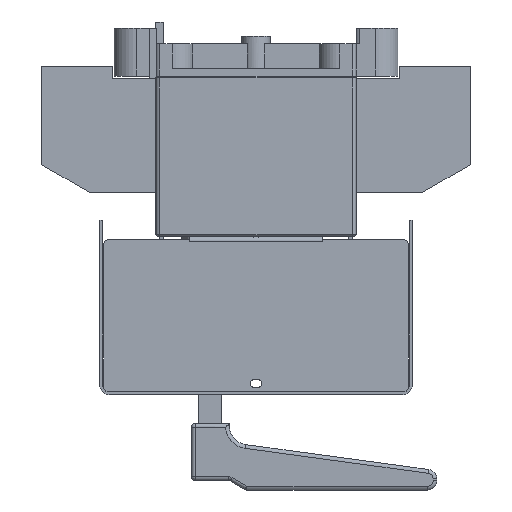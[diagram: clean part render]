
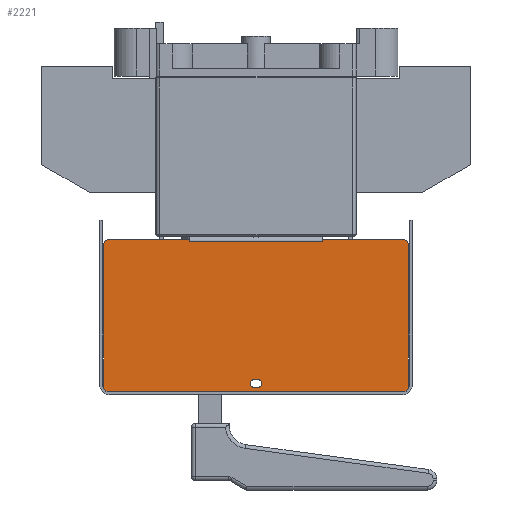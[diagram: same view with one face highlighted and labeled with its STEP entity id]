
A CAD part, left-side view. The second image highlights one B-rep face of the part: STEP entity #2221.
In plain terms, the highlighted planar face has unit normal (-1, 0, 0).
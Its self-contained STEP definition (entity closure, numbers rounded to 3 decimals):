
#2221=ADVANCED_FACE('',(#9088,#9089),#3278,.T.);
#3278=PLANE('',#24937);
#5010=LINE('',#36242,#7625);
#5020=LINE('',#36267,#7635);
#5022=LINE('',#36271,#7637);
#5024=LINE('',#36275,#7639);
#5027=LINE('',#36281,#7642);
#5037=LINE('',#36316,#7652);
#5038=LINE('',#36320,#7653);
#5039=LINE('',#36321,#7654);
#5040=LINE('',#36325,#7655);
#5041=LINE('',#36329,#7656);
#5042=LINE('',#36333,#7657);
#5043=LINE('',#36337,#7658);
#7625=VECTOR('',#29225,1.);
#7635=VECTOR('',#29251,1.);
#7637=VECTOR('',#29255,1.);
#7639=VECTOR('',#29259,1.);
#7642=VECTOR('',#29264,1.);
#7652=VECTOR('',#29292,1.);
#7653=VECTOR('',#29295,1.);
#7654=VECTOR('',#29296,1.);
#7655=VECTOR('',#29299,1.);
#7656=VECTOR('',#29302,1.);
#7657=VECTOR('',#29305,1.);
#7658=VECTOR('',#29308,1.);
#9088=FACE_BOUND('',#9932,.T.);
#9089=FACE_BOUND('',#9933,.T.);
#9932=EDGE_LOOP('',(#14026,#14027,#14028,#14029));
#9933=EDGE_LOOP('',(#14030,#14031,#14032,#14033,#14034,#14035,#14036,#14037,
#14038,#14039,#14040,#14041,#14042,#14043));
#14026=ORIENTED_EDGE('',*,*,#21449,.T.);
#14027=ORIENTED_EDGE('',*,*,#21450,.T.);
#14028=ORIENTED_EDGE('',*,*,#21451,.T.);
#14029=ORIENTED_EDGE('',*,*,#21452,.T.);
#14030=ORIENTED_EDGE('',*,*,#21428,.F.);
#14031=ORIENTED_EDGE('',*,*,#21426,.T.);
#14032=ORIENTED_EDGE('',*,*,#21413,.T.);
#14033=ORIENTED_EDGE('',*,*,#21430,.T.);
#14034=ORIENTED_EDGE('',*,*,#21433,.F.);
#14035=ORIENTED_EDGE('',*,*,#21453,.T.);
#14036=ORIENTED_EDGE('',*,*,#21454,.T.);
#14037=ORIENTED_EDGE('',*,*,#21455,.T.);
#14038=ORIENTED_EDGE('',*,*,#21456,.T.);
#14039=ORIENTED_EDGE('',*,*,#21457,.T.);
#14040=ORIENTED_EDGE('',*,*,#21458,.T.);
#14041=ORIENTED_EDGE('',*,*,#21459,.T.);
#14042=ORIENTED_EDGE('',*,*,#21460,.T.);
#14043=ORIENTED_EDGE('',*,*,#21461,.T.);
#18619=VERTEX_POINT('',#36241);
#18620=VERTEX_POINT('',#36243);
#18625=VERTEX_POINT('',#36264);
#18628=VERTEX_POINT('',#36272);
#18629=VERTEX_POINT('',#36276);
#18631=VERTEX_POINT('',#36282);
#18645=VERTEX_POINT('',#36314);
#18646=VERTEX_POINT('',#36315);
#18647=VERTEX_POINT('',#36317);
#18648=VERTEX_POINT('',#36319);
#18649=VERTEX_POINT('',#36322);
#18650=VERTEX_POINT('',#36324);
#18651=VERTEX_POINT('',#36326);
#18652=VERTEX_POINT('',#36328);
#18653=VERTEX_POINT('',#36330);
#18654=VERTEX_POINT('',#36332);
#18655=VERTEX_POINT('',#36334);
#18656=VERTEX_POINT('',#36336);
#21413=EDGE_CURVE('',#18620,#18619,#5010,.T.);
#21426=EDGE_CURVE('',#18625,#18620,#5020,.T.);
#21428=EDGE_CURVE('',#18625,#18628,#5022,.T.);
#21430=EDGE_CURVE('',#18619,#18629,#5024,.T.);
#21433=EDGE_CURVE('',#18631,#18629,#5027,.T.);
#21449=EDGE_CURVE('',#18645,#18646,#23508,.T.);
#21450=EDGE_CURVE('',#18646,#18647,#5037,.T.);
#21451=EDGE_CURVE('',#18647,#18648,#23509,.T.);
#21452=EDGE_CURVE('',#18648,#18645,#5038,.T.);
#21453=EDGE_CURVE('',#18631,#18649,#5039,.T.);
#21454=EDGE_CURVE('',#18649,#18650,#23510,.T.);
#21455=EDGE_CURVE('',#18650,#18651,#5040,.T.);
#21456=EDGE_CURVE('',#18651,#18652,#23511,.T.);
#21457=EDGE_CURVE('',#18652,#18653,#5041,.T.);
#21458=EDGE_CURVE('',#18653,#18654,#23512,.T.);
#21459=EDGE_CURVE('',#18654,#18655,#5042,.T.);
#21460=EDGE_CURVE('',#18655,#18656,#23513,.T.);
#21461=EDGE_CURVE('',#18656,#18628,#5043,.T.);
#23508=CIRCLE('',#24931,2.1);
#23509=CIRCLE('',#24932,2.1);
#23510=CIRCLE('',#24933,3.);
#23511=CIRCLE('',#24934,3.);
#23512=CIRCLE('',#24935,3.);
#23513=CIRCLE('',#24936,3.);
#24931=AXIS2_PLACEMENT_3D('',#36313,#29290,#29291);
#24932=AXIS2_PLACEMENT_3D('',#36318,#29293,#29294);
#24933=AXIS2_PLACEMENT_3D('',#36323,#29297,#29298);
#24934=AXIS2_PLACEMENT_3D('',#36327,#29300,#29301);
#24935=AXIS2_PLACEMENT_3D('',#36331,#29303,#29304);
#24936=AXIS2_PLACEMENT_3D('',#36335,#29306,#29307);
#24937=AXIS2_PLACEMENT_3D('',#36338,#29309,#29310);
#29225=DIRECTION('',(0.,1.,0.));
#29251=DIRECTION('',(0.,1.,0.));
#29255=DIRECTION('',(0.,0.,1.));
#29259=DIRECTION('',(0.,1.,0.));
#29264=DIRECTION('',(0.,0.,-1.));
#29290=DIRECTION('',(1.,0.,0.));
#29291=DIRECTION('',(0.,1.,0.));
#29292=DIRECTION('',(0.,-1.,0.));
#29293=DIRECTION('',(1.,0.,0.));
#29294=DIRECTION('',(0.,1.,0.));
#29295=DIRECTION('',(0.,1.,0.));
#29296=DIRECTION('',(0.,1.,0.));
#29297=DIRECTION('',(-1.,0.,0.));
#29298=DIRECTION('',(0.,1.,0.));
#29299=DIRECTION('',(0.,0.,-1.));
#29300=DIRECTION('',(-1.,0.,0.));
#29301=DIRECTION('',(0.,1.,0.));
#29302=DIRECTION('',(0.,-1.,0.));
#29303=DIRECTION('',(-1.,0.,0.));
#29304=DIRECTION('',(0.,1.,0.));
#29305=DIRECTION('',(0.,0.,1.));
#29306=DIRECTION('',(-1.,0.,0.));
#29307=DIRECTION('',(0.,1.,0.));
#29308=DIRECTION('',(0.,1.,0.));
#29309=DIRECTION('',(-1.,0.,0.));
#29310=DIRECTION('',(0.,-1.,0.));
#36241=CARTESIAN_POINT('',(-189.3,35.,-86.8));
#36242=CARTESIAN_POINT('',(-189.3,50.5,-86.8));
#36243=CARTESIAN_POINT('',(-189.3,-35.,-86.8));
#36264=CARTESIAN_POINT('',(-189.3,-35.002,-86.8));
#36267=CARTESIAN_POINT('',(-189.3,77.,-86.8));
#36271=CARTESIAN_POINT('',(-189.3,-35.002,-162.8));
#36272=CARTESIAN_POINT('',(-189.3,-35.002,-85.8));
#36275=CARTESIAN_POINT('',(-189.3,77.,-86.8));
#36276=CARTESIAN_POINT('',(-189.3,35.002,-86.8));
#36281=CARTESIAN_POINT('',(-189.3,35.002,-162.8));
#36282=CARTESIAN_POINT('',(-189.3,35.002,-85.8));
#36313=CARTESIAN_POINT('',(-189.3,1.,-161.4));
#36314=CARTESIAN_POINT('',(-189.3,1.,-163.5));
#36315=CARTESIAN_POINT('',(-189.3,1.,-159.3));
#36316=CARTESIAN_POINT('',(-189.3,1.,-159.3));
#36317=CARTESIAN_POINT('',(-189.3,-1.,-159.3));
#36318=CARTESIAN_POINT('',(-189.3,-1.,-161.4));
#36319=CARTESIAN_POINT('',(-189.3,-1.,-163.5));
#36320=CARTESIAN_POINT('',(-189.3,-1.,-163.5));
#36321=CARTESIAN_POINT('',(-189.3,-77.,-85.8));
#36322=CARTESIAN_POINT('',(-189.3,77.,-85.8));
#36323=CARTESIAN_POINT('',(-189.3,77.,-88.8));
#36324=CARTESIAN_POINT('',(-189.3,80.,-88.8));
#36325=CARTESIAN_POINT('',(-189.3,80.,-88.8));
#36326=CARTESIAN_POINT('',(-189.3,80.,-162.8));
#36327=CARTESIAN_POINT('',(-189.3,77.,-162.8));
#36328=CARTESIAN_POINT('',(-189.3,77.,-165.8));
#36329=CARTESIAN_POINT('',(-189.3,77.,-165.8));
#36330=CARTESIAN_POINT('',(-189.3,-77.,-165.8));
#36331=CARTESIAN_POINT('',(-189.3,-77.,-162.8));
#36332=CARTESIAN_POINT('',(-189.3,-80.,-162.8));
#36333=CARTESIAN_POINT('',(-189.3,-80.,-162.8));
#36334=CARTESIAN_POINT('',(-189.3,-80.,-88.8));
#36335=CARTESIAN_POINT('',(-189.3,-77.,-88.8));
#36336=CARTESIAN_POINT('',(-189.3,-77.,-85.8));
#36337=CARTESIAN_POINT('',(-189.3,-77.,-85.8));
#36338=CARTESIAN_POINT('',(-189.3,77.,-162.8));
